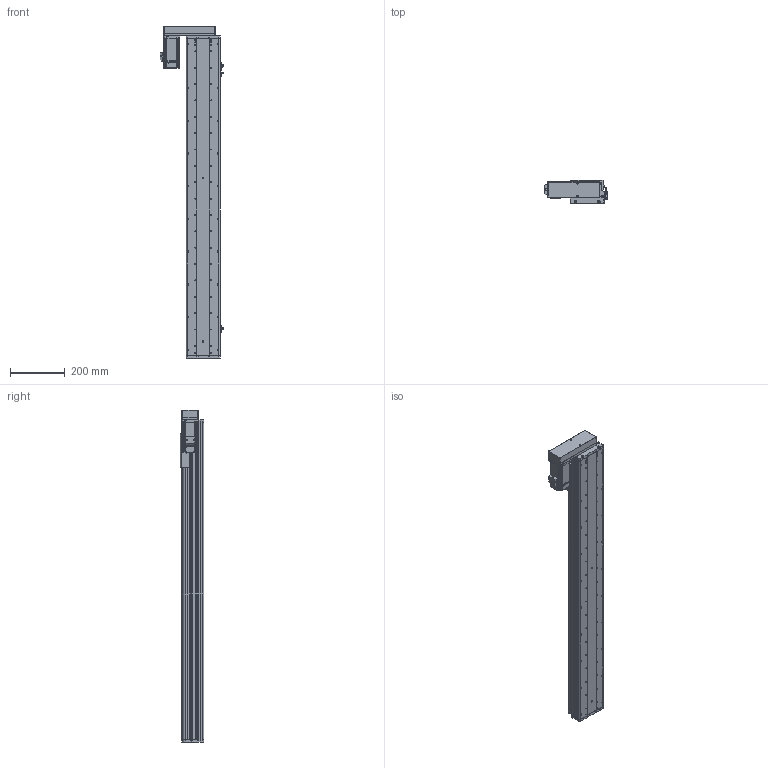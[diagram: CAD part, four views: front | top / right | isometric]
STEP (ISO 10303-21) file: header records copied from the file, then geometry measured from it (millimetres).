
FILE_DESCRIPTION (( 'STEP AP214' ), '1' );
FILE_NAME ('KSD125S-S950-ML-CM.STEP', '2017-10-21T08:41:52', ( '微软用户' ), ( '微软中国' ), 'SwSTEP 2.0', 'SolidWorks 2014', '' );
FILE_SCHEMA (( 'AUTOMOTIVE_DESIGN' ));
Length unit declared in the file: millimetre
Products named in the file (16): 覜茼え68遵圉猾敕; U倰嫖萇EEㄜSX672; HTPA30S3M150_A_H6_a佪裝蚚; HTPA30S3M150_A_H6_a萇儂蚚; 125宽马达安装板连板左右折丝杆; 125悵誘欶酘衵殏; KSD125S-950俴最佪裝滅鳥裔; KSD125S-950俴最佪裝菁啣; KSD125-賑雄釱1; MHMD042G1CA_2_03; 拸萇儂釱滅袉菜; 拸萇儂釱滅袉菜-1; U倰嫖萇假蚾璃; ヶ傷啣-125遵耀郪; 125-帣傷啣1; KSD125S-S950-ML-CM
Assembly tree (19 placements, depth 2):
  KSD125S-S950-ML-CM
    125-帣傷啣1
    ヶ傷啣-125遵耀郪
    U倰嫖萇假蚾璃  x3
    拸萇儂釱滅袉菜-1
    拸萇儂釱滅袉菜
    MHMD042G1CA_2_03
    KSD125-賑雄釱1
    KSD125S-950俴最佪裝菁啣
    KSD125S-950俴最佪裝滅鳥裔
    125悵誘欶酘衵殏
    125宽马达安装板连板左右折丝杆
    HTPA30S3M150_A_H6_a萇儂蚚
    HTPA30S3M150_A_H6_a佪裝蚚
    U倰嫖萇EEㄜSX672  x3
    覜茼え68遵圉猾敕
Bounding box: 234.2 x 86 x 1217.5 mm (x, y, z)
Volume: 3842159.5 mm3; surface area: 1297297.6 mm2
Topology: 18 solids, 21 shells, 2255 faces, 6543 edges, 4317 vertices
Faces by surface type: cylinder 1426, plane 688, cone 119, bspline 22
Entity records: 79853 total; most frequent: CARTESIAN_POINT 16189, DIRECTION 12457, ORIENTED_EDGE 11594, EDGE_CURVE 5875, AXIS2_PLACEMENT_3D 4827, VERTEX_POINT 3909, VECTOR 2803, LINE 2803
